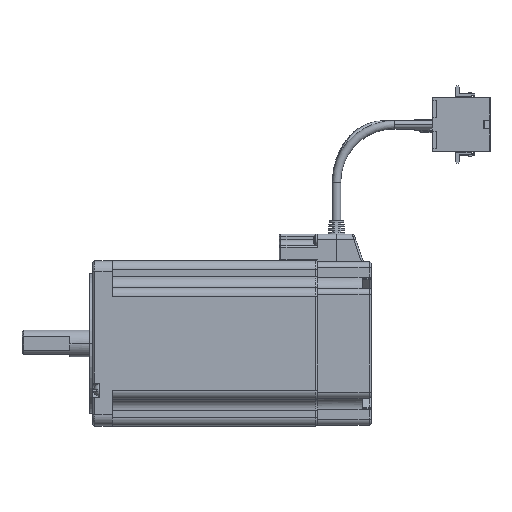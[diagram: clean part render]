
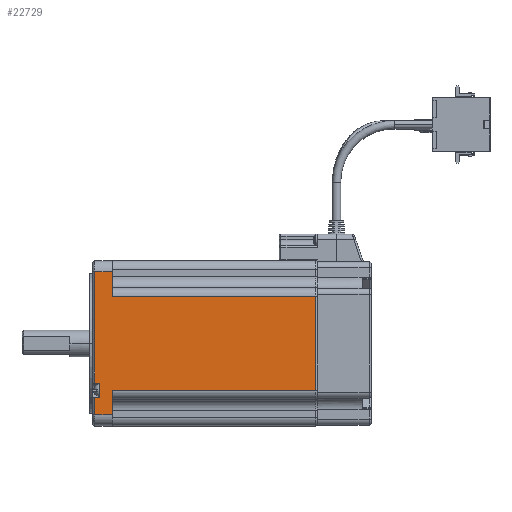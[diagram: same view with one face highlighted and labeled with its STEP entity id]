
A CAD part, top view. The second image highlights one B-rep face of the part: STEP entity #22729.
In plain terms, the highlighted planar face has unit normal (0, 0, 1) as drawn and (-1, 0, 0) by its records, which use the part's own axes.
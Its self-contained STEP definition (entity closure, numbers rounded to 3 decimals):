
#99 = VECTOR ( 'NONE', #22922, 1000. ) ;
#649 = VERTEX_POINT ( 'NONE', #17637 ) ;
#1098 = DIRECTION ( 'NONE',  ( 0., -1., 0. ) ) ;
#1208 = VERTEX_POINT ( 'NONE', #29148 ) ;
#1714 = VERTEX_POINT ( 'NONE', #16827 ) ;
#1816 = DIRECTION ( 'NONE',  ( 0., 1., 0. ) ) ;
#2538 = LINE ( 'NONE', #24996, #25997 ) ;
#2655 = EDGE_CURVE ( 'NONE', #8495, #6073, #28255, .T. ) ;
#2680 = EDGE_LOOP ( 'NONE', ( #12634, #23855, #13354, #15912, #29126, #3559, #29263, #27549, #5487, #8008, #19663, #21608 ) ) ;
#2849 = DIRECTION ( 'NONE',  ( 0., 0., -1. ) ) ;
#2912 = CARTESIAN_POINT ( 'NONE',  ( -119.958, 80.76, 0. ) ) ;
#3421 = VERTEX_POINT ( 'NONE', #4111 ) ;
#3483 = EDGE_CURVE ( 'NONE', #7141, #1208, #4363, .T. ) ;
#3559 = ORIENTED_EDGE ( 'NONE', *, *, #10640, .T. ) ;
#4055 = VECTOR ( 'NONE', #24824, 1000. ) ;
#4111 = CARTESIAN_POINT ( 'NONE',  ( -119.958, 68.06, -116. ) ) ;
#4363 = LINE ( 'NONE', #2912, #21031 ) ;
#5107 = LINE ( 'NONE', #10097, #22494 ) ;
#5248 = CARTESIAN_POINT ( 'NONE',  ( -119.958, 0.46, 0. ) ) ;
#5487 = ORIENTED_EDGE ( 'NONE', *, *, #24384, .T. ) ;
#6073 = VERTEX_POINT ( 'NONE', #16592 ) ;
#6093 = CARTESIAN_POINT ( 'NONE',  ( -119.958, 6.16, 0. ) ) ;
#6756 = AXIS2_PLACEMENT_3D ( 'NONE', #5248, #28032, #14398 ) ;
#7055 = CARTESIAN_POINT ( 'NONE',  ( -119.958, 0.46, -10. ) ) ;
#7141 = VERTEX_POINT ( 'NONE', #17412 ) ;
#7547 = VERTEX_POINT ( 'NONE', #28571 ) ;
#7602 = EDGE_CURVE ( 'NONE', #28544, #649, #13693, .T. ) ;
#7787 = CARTESIAN_POINT ( 'NONE',  ( -119.958, 68.06, -10. ) ) ;
#7867 = VERTEX_POINT ( 'NONE', #27753 ) ;
#8008 = ORIENTED_EDGE ( 'NONE', *, *, #15766, .T. ) ;
#8258 = CARTESIAN_POINT ( 'NONE',  ( -119.958, 6.16, -10. ) ) ;
#8495 = VERTEX_POINT ( 'NONE', #14579 ) ;
#8537 = DIRECTION ( 'NONE',  ( 0., 0., 1. ) ) ;
#8557 = EDGE_CURVE ( 'NONE', #1208, #7867, #10147, .T. ) ;
#9310 = DIRECTION ( 'NONE',  ( 0., 1., 0. ) ) ;
#10035 = LINE ( 'NONE', #25320, #16058 ) ;
#10097 = CARTESIAN_POINT ( 'NONE',  ( -119.958, 64.16, 0. ) ) ;
#10147 = LINE ( 'NONE', #10216, #28307 ) ;
#10216 = CARTESIAN_POINT ( 'NONE',  ( -119.958, 0.46, -10. ) ) ;
#10464 = LINE ( 'NONE', #16301, #21795 ) ;
#10640 = EDGE_CURVE ( 'NONE', #1714, #28544, #12154, .T. ) ;
#11610 = VECTOR ( 'NONE', #1816, 1000. ) ;
#11942 = CARTESIAN_POINT ( 'NONE',  ( -119.958, 64.16, -3.5 ) ) ;
#12154 = LINE ( 'NONE', #7055, #99 ) ;
#12369 = DIRECTION ( 'NONE',  ( 0., 0., -1. ) ) ;
#12634 = ORIENTED_EDGE ( 'NONE', *, *, #3483, .T. ) ;
#13354 = ORIENTED_EDGE ( 'NONE', *, *, #21650, .F. ) ;
#13693 = LINE ( 'NONE', #6093, #18968 ) ;
#14014 = EDGE_CURVE ( 'NONE', #7547, #1714, #23581, .T. ) ;
#14115 = PLANE ( 'NONE',  #6756 ) ;
#14398 = DIRECTION ( 'NONE',  ( 0., 0., 1. ) ) ;
#14579 = CARTESIAN_POINT ( 'NONE',  ( -119.958, 71.76, -3.5 ) ) ;
#15243 = EDGE_CURVE ( 'NONE', #7547, #3421, #10035, .T. ) ;
#15390 = CARTESIAN_POINT ( 'NONE',  ( -119.958, 0.46, -1. ) ) ;
#15396 = VERTEX_POINT ( 'NONE', #23628 ) ;
#15766 = EDGE_CURVE ( 'NONE', #28347, #8495, #2538, .T. ) ;
#15912 = ORIENTED_EDGE ( 'NONE', *, *, #15243, .F. ) ;
#16058 = VECTOR ( 'NONE', #27649, 1000. ) ;
#16301 = CARTESIAN_POINT ( 'NONE',  ( -119.958, 0.46, -1. ) ) ;
#16592 = CARTESIAN_POINT ( 'NONE',  ( -119.958, 71.76, -1. ) ) ;
#16624 = VECTOR ( 'NONE', #25971, 1000. ) ;
#16827 = CARTESIAN_POINT ( 'NONE',  ( -119.958, 18.86, -10. ) ) ;
#16929 = LINE ( 'NONE', #15390, #11610 ) ;
#17412 = CARTESIAN_POINT ( 'NONE',  ( -119.958, 80.76, -1. ) ) ;
#17515 = VECTOR ( 'NONE', #8537, 1000. ) ;
#17528 = CARTESIAN_POINT ( 'NONE',  ( -119.958, 18.86, 0. ) ) ;
#17637 = CARTESIAN_POINT ( 'NONE',  ( -119.958, 6.16, -1. ) ) ;
#18534 = DIRECTION ( 'NONE',  ( 0., 1., 0. ) ) ;
#18968 = VECTOR ( 'NONE', #28863, 1000. ) ;
#19663 = ORIENTED_EDGE ( 'NONE', *, *, #2655, .T. ) ;
#20476 = EDGE_CURVE ( 'NONE', #649, #15396, #10464, .T. ) ;
#21031 = VECTOR ( 'NONE', #2849, 1000. ) ;
#21608 = ORIENTED_EDGE ( 'NONE', *, *, #22394, .T. ) ;
#21650 = EDGE_CURVE ( 'NONE', #3421, #7867, #28750, .T. ) ;
#21795 = VECTOR ( 'NONE', #18534, 1000. ) ;
#22394 = EDGE_CURVE ( 'NONE', #6073, #7141, #16929, .T. ) ;
#22494 = VECTOR ( 'NONE', #12369, 1000. ) ;
#22729 = ADVANCED_FACE ( 'NONE', ( #27981 ), #14115, .T. ) ;
#22922 = DIRECTION ( 'NONE',  ( 0., -1., 0. ) ) ;
#23581 = LINE ( 'NONE', #17528, #17515 ) ;
#23628 = CARTESIAN_POINT ( 'NONE',  ( -119.958, 64.16, -1. ) ) ;
#23855 = ORIENTED_EDGE ( 'NONE', *, *, #8557, .T. ) ;
#24384 = EDGE_CURVE ( 'NONE', #15396, #28347, #5107, .T. ) ;
#24657 = CARTESIAN_POINT ( 'NONE',  ( -119.958, 71.76, 0. ) ) ;
#24824 = DIRECTION ( 'NONE',  ( 0., 0., 1. ) ) ;
#24996 = CARTESIAN_POINT ( 'NONE',  ( -119.958, 0.46, -3.5 ) ) ;
#25320 = CARTESIAN_POINT ( 'NONE',  ( -119.958, 0.46, -116. ) ) ;
#25971 = DIRECTION ( 'NONE',  ( 0., 0., 1. ) ) ;
#25997 = VECTOR ( 'NONE', #9310, 1000. ) ;
#27549 = ORIENTED_EDGE ( 'NONE', *, *, #20476, .T. ) ;
#27649 = DIRECTION ( 'NONE',  ( 0., 1., 0. ) ) ;
#27753 = CARTESIAN_POINT ( 'NONE',  ( -119.958, 68.06, -10. ) ) ;
#27981 = FACE_OUTER_BOUND ( 'NONE', #2680, .T. ) ;
#28032 = DIRECTION ( 'NONE',  ( -1., 0., 0. ) ) ;
#28255 = LINE ( 'NONE', #24657, #4055 ) ;
#28307 = VECTOR ( 'NONE', #1098, 1000. ) ;
#28347 = VERTEX_POINT ( 'NONE', #11942 ) ;
#28544 = VERTEX_POINT ( 'NONE', #8258 ) ;
#28571 = CARTESIAN_POINT ( 'NONE',  ( -119.958, 18.86, -116. ) ) ;
#28750 = LINE ( 'NONE', #7787, #16624 ) ;
#28863 = DIRECTION ( 'NONE',  ( 0., 0., 1. ) ) ;
#29126 = ORIENTED_EDGE ( 'NONE', *, *, #14014, .T. ) ;
#29148 = CARTESIAN_POINT ( 'NONE',  ( -119.958, 80.76, -10. ) ) ;
#29263 = ORIENTED_EDGE ( 'NONE', *, *, #7602, .T. ) ;
